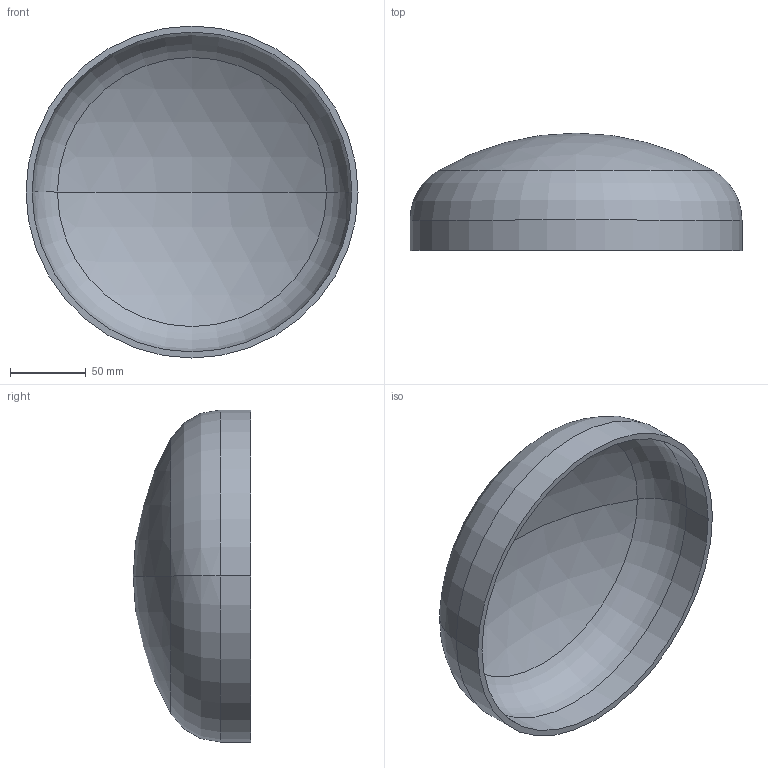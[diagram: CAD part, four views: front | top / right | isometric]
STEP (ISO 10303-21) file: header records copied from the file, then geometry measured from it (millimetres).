
FILE_DESCRIPTION (( 'STEP AP203' ), '1' );
FILE_NAME ('DIN 28013 Korbbogenform_-_Boden DIN 28013 - 219,1 x 20 - I - s=4.step', '2016-07-01T07:42:21', ( '' ), ( '' ), 'SwSTEP 2.0', 'SolidWorks 2013', '' );
FILE_SCHEMA (( 'CONFIG_CONTROL_DESIGN' ));
Length unit declared in the file: millimetre
Products named in the file (1): DIN 28013 Korbbogenform_-_Boden DIN 28013 - 219,1 x 20 - I - s=4
Bounding box: 219.1 x 77.5 x 219.1 mm (x, y, z)
Volume: 258303.5 mm3; surface area: 131888.2 mm2
Topology: 1 solids, 1 shells, 13 faces, 24 edges, 14 vertices
Faces by surface type: torus 4, cylinder 4, sphere 4, plane 1
Entity records: 407 total; most frequent: DIRECTION 72, CARTESIAN_POINT 52, ORIENTED_EDGE 48, AXIS2_PLACEMENT_3D 34, EDGE_CURVE 24, CIRCLE 20, VERTEX_POINT 14, EDGE_LOOP 14
